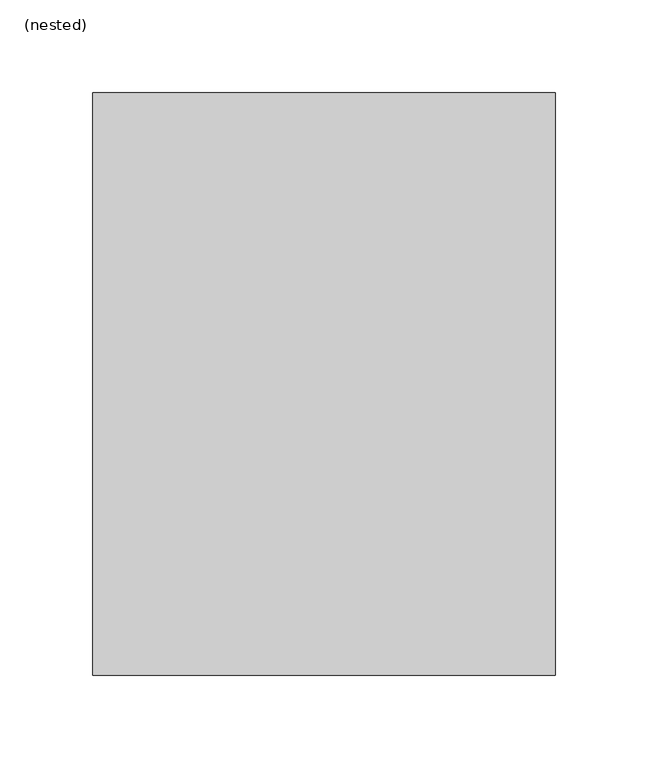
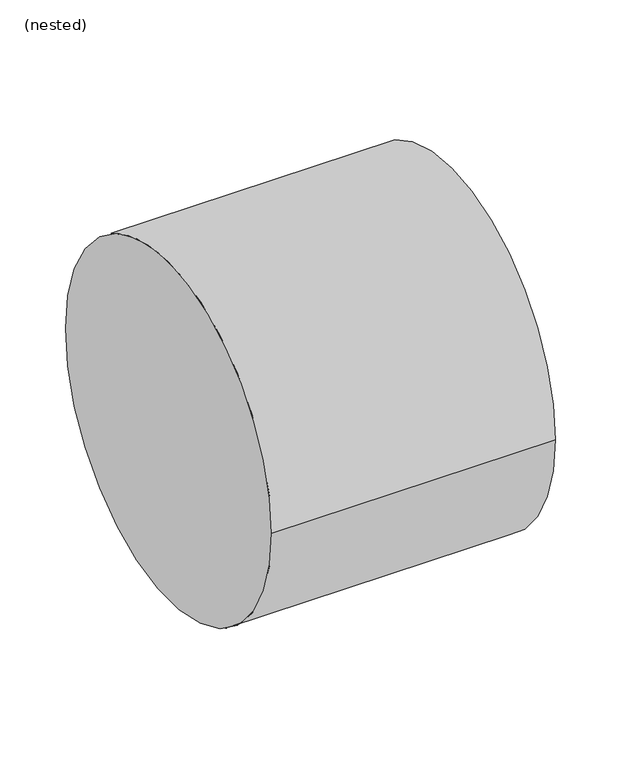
"""IFC4 building model written with IfcOpenShell, lengths in millimetres: pipe segment geometry, NLRS_52_PIF_UN_PE buis_SH_geb : (nested)."""

from ifc_helpers import new_model, si_unit, point, frame, origin, origin_2d, place, context, project, spatial, circle_curve, trimmed, segment, composite_curve, outline, extrude, source, transform, mapped, element, save


def nested_135c0b6a(model_context):
    return source(origin(), model_context, "Body", "SweptSolid", [
        extrude(outline(composite_curve([segment(trimmed(circle_curve(origin_2d(), 157.5), [point((157.5, 0.0))], [point((-157.5, 0.0))], False, "CARTESIAN"), True, "CONTINUOUS"), segment(trimmed(circle_curve(origin_2d(), 157.5), [point((-157.5, 0.0))], [point((157.5, 0.0))], False, "CARTESIAN"), True, "CONTINUOUS")], self_intersect=False)), frame((0.0, 0.0, 0.0), z_axis=(1.0, 0.0, 0.0), x_axis=(0.0, 1.0, 0.0)), (0.0, 0.0, 1.0), 250.0),
    ])


if __name__ == "__main__":
    model = new_model("IFC4")
    model_context = context("Model", 3, world=origin())
    ifc_project = project(units=[si_unit("LENGTHUNIT", "METRE", prefix="MILLI")], contexts=[model_context])
    site = spatial("IfcSite", under=ifc_project)
    building = spatial("IfcBuilding", under=site)
    placement = place(None, origin())
    nested_shape = nested_135c0b6a(model_context)
    element("IfcPipeSegment", 1, ObjectType="NLRS_52_PIF_UN_PE buis_SH_geb : (nested)", at=placement, inside=building, context=model_context, shape_type="MappedRepresentation", body=[
        mapped(nested_shape, transform((0.0, 0.0, 0.0), x_axis=(1.0, 0.0, 0.0), y_axis=(0.0, 1.0, 0.0), z_axis=(0.0, 0.0, 1.0))),
    ])
    save(model, "model.ifc")
